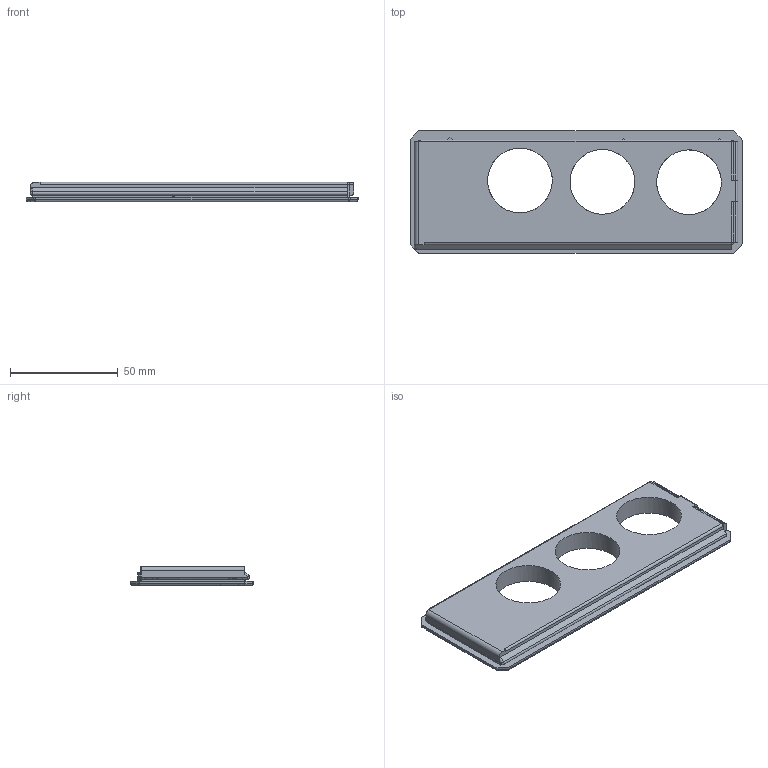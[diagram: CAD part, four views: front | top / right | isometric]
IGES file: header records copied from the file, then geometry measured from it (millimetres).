
Global section: file name: hori_einsatz; native system: unknown; preprocessor: unknown; author: unknown; organization: unknown; date: 20260129.014737; units: millimetre
Bounding box: 154 x 57 x 9 mm (x, y, z)
Volume: 49692.3 mm3; surface area: 19752.7 mm2
Topology: 1 solids, 1 shells, 87 faces, 223 edges, 139 vertices
Faces by surface type: bspline 87
